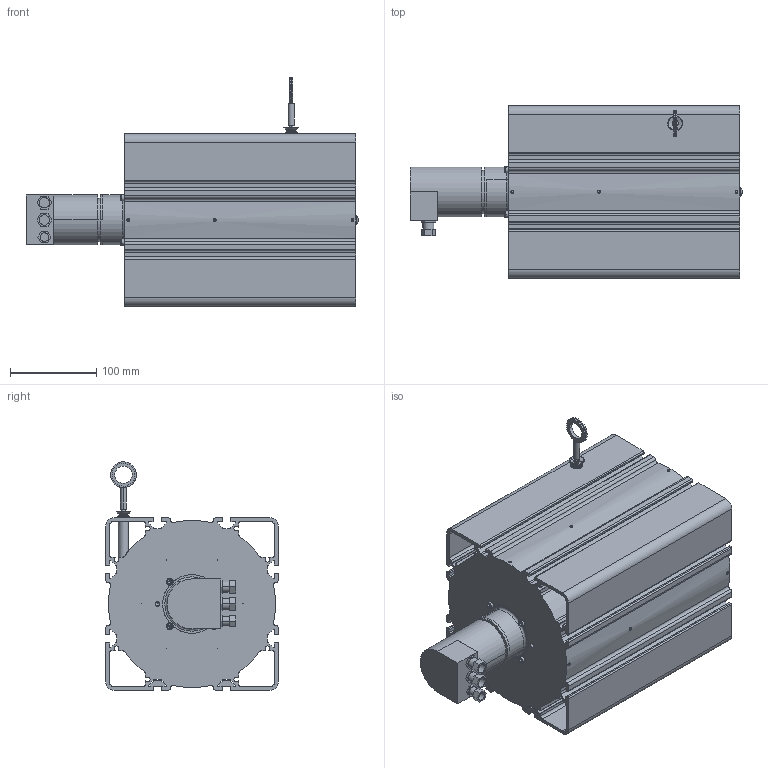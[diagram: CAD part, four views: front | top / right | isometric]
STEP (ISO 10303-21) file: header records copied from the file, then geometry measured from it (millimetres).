
FILE_DESCRIPTION((''),'2;1');
FILE_NAME('','2007-05-29T',(''),(''),'PRO/ENGINEER BY PARAMETRIC TECHNOLOGY CORPORATION, 2003250','PRO/ENGINEER BY PARAMETRIC TECHNOLOGY CORPORATION, 2003250','');
FILE_SCHEMA(('CONFIG_CONTROL_DESIGN'));
Length unit declared in the file: millimetre
Bounding box: 385.17 x 200 x 264.95 mm (x, y, z)
Volume: 2133503.4 mm3; surface area: 803100.7 mm2
Topology: 1 solids, 6 shells, 908 faces, 2407 edges, 1558 vertices
Faces by surface type: cylinder 404, plane 358, cone 102, torus 42, sphere 2
Entity records: 29411 total; most frequent: CARTESIAN_POINT 6289, DIRECTION 5011, ORIENTED_EDGE 4746, EDGE_CURVE 2373, AXIS2_PLACEMENT_3D 1896, VERTEX_POINT 1558, VECTOR 1219, LINE 1219
